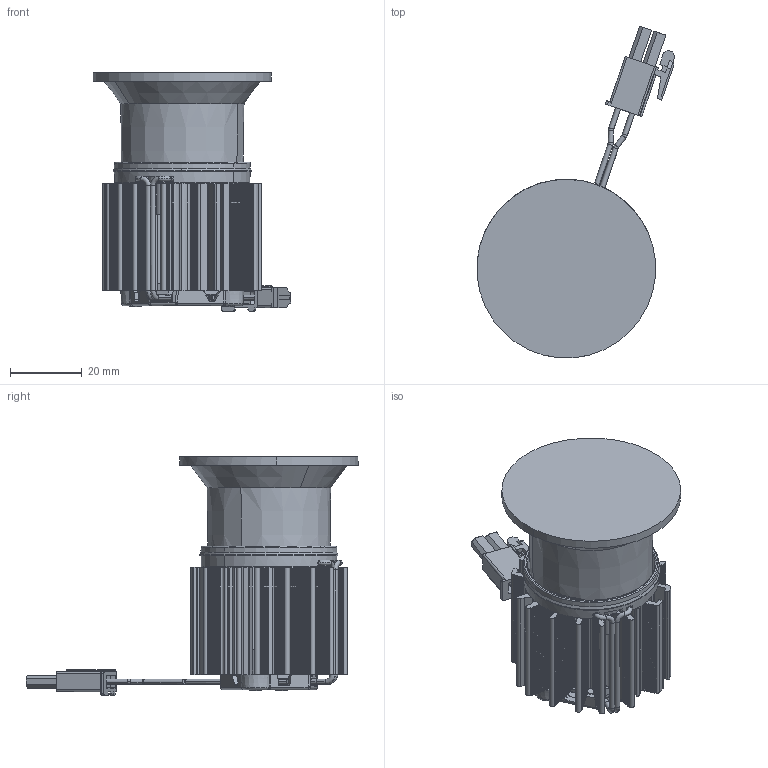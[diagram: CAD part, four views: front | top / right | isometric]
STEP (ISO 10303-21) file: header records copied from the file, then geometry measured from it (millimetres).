
FILE_DESCRIPTION(('Creo Elements/Direct Modeling STEP Export'),'2;1');
FILE_NAME('ACTIVE_7.2_PLUS.stp','2018-02-21T 9:34:01',(''),(''),'Creo Elements/Direct Modeling STEP processor for AP214 (Solid Model)','Creo Elements/Direct Modeling 19.0F 14-Feb-2017 (C) Parametric Technology GmbH','');
FILE_SCHEMA(('AUTOMOTIVE_DESIGN { 1 0 10303 214 1 1 1 1 }'));
Length unit declared in the file: millimetre
Products named in the file (27): RIFLETTORE_METALLIZZAZIONE.PRT; SERRACAVO_1.PRT; DISSIPATORE; V8_BXRE_SM_PRT.PRT; V8_BXRE_BASE_ROUND_CENTER_PRT_1.PRT; V8_BXRE_RD_PRT.PRT; V8_BXRE_PH_PRT.PRT; CUT-EXTRUDE1_4__PRT.PRT; CUT-EXTRUDE1_8__PRT.PRT; CUT-EXTRUDE1_3__PRT.PRT; CUT-EXTRUDE1_6__PRT.PRT; CUT-EXTRUDE1_7__PRT.PRT; CUT-EXTRUDE1_2__PRT.PRT; CUT-EXTRUDE1_5__PRT.PRT; CUT-EXTRUDE1_1__PRT.PRT; V8_BXRE_METAL_ASM.ASM; V8_BXRE; CAVO_CONN_1; CAVO_1; CAVO_1.2; CAVO_CONN_2; COP_MASCHIO; CAVO_CONN_3; CONNETTORE.ASM; LED.ASM; HOLDER_12_5X12_5; ACTIVE_7.2_PLUS
Assembly tree (26 placements, depth 5):
  ACTIVE_7.2_PLUS
    HOLDER_12_5X12_5
    LED.ASM
      CONNETTORE.ASM
        CAVO_CONN_3
        COP_MASCHIO
        CAVO_CONN_2
        CAVO_1.2
        CAVO_1
        CAVO_CONN_1
      V8_BXRE
        V8_BXRE_METAL_ASM.ASM
          CUT-EXTRUDE1_1__PRT.PRT
          CUT-EXTRUDE1_5__PRT.PRT
          CUT-EXTRUDE1_2__PRT.PRT
          CUT-EXTRUDE1_7__PRT.PRT
          CUT-EXTRUDE1_6__PRT.PRT
          CUT-EXTRUDE1_3__PRT.PRT
          CUT-EXTRUDE1_8__PRT.PRT
          CUT-EXTRUDE1_4__PRT.PRT
        V8_BXRE_PH_PRT.PRT
        V8_BXRE_RD_PRT.PRT
        V8_BXRE_BASE_ROUND_CENTER_PRT_1.PRT
        V8_BXRE_SM_PRT.PRT
    DISSIPATORE
    SERRACAVO_1.PRT
    RIFLETTORE_METALLIZZAZIONE.PRT
Bounding box: 55.27 x 92.81 x 66.67 mm (x, y, z)
Volume: 52348.3 mm3; surface area: 37221.2 mm2
Topology: 22 solids, 22 shells, 2414 faces, 6770 edges, 4362 vertices
Faces by surface type: plane 1407, cylinder 550, bspline 196, torus 112, cone 91, sphere 58
Entity records: 88463 total; most frequent: CARTESIAN_POINT 25507, ORIENTED_EDGE 13426, DIRECTION 11664, EDGE_CURVE 6713, VERTEX_POINT 4362, VECTOR 4344, LINE 4344, AXIS2_PLACEMENT_3D 3660
